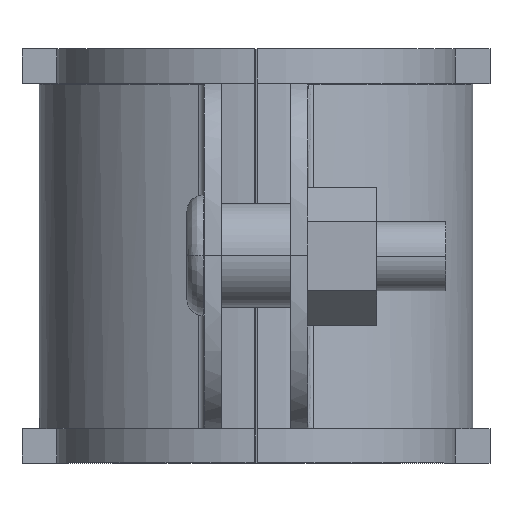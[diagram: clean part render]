
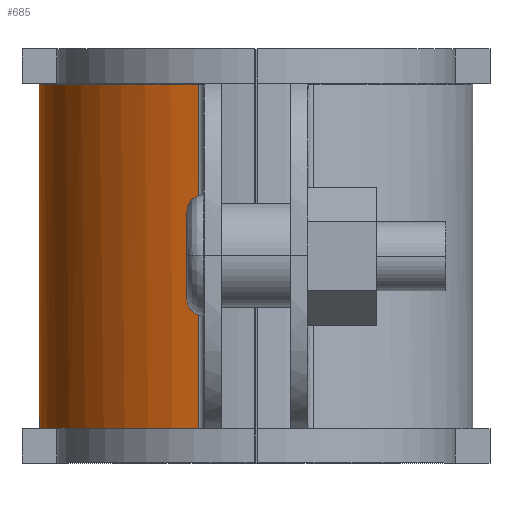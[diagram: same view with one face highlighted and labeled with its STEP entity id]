
A CAD part, top view. The second image highlights one B-rep face of the part: STEP entity #685.
In plain terms, the highlighted free-form (B-spline) face has degree [3, 1] with [4, 2] control points.
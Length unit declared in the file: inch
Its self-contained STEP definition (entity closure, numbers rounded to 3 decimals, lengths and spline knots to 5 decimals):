
#475=EDGE_CURVE('',#1058,#1195,#1196,.T.);
#523=EDGE_CURVE('',#1058,#1268,#1269,.T.);
#685=ADVANCED_FACE('',(#1498),#1499,.T.);
#751=EDGE_CURVE('',#1054,#1268,#1583,.T.);
#843=EDGE_CURVE('',#1195,#1054,#1700,.T.);
#1054=VERTEX_POINT('',#1991);
#1058=VERTEX_POINT('',#1997);
#1195=VERTEX_POINT('',#2286);
#1196=B_SPLINE_CURVE_WITH_KNOTS('',3,(#2287,#2288,#2289,#2290),.UNSPECIFIED.,.F.,.F.,(4,4),(-1.0,-0.0),.UNSPECIFIED.);
#1268=VERTEX_POINT('',#2415);
#1269=LINE('',#2416,#2417);
#1498=FACE_OUTER_BOUND('',#2829,.T.);
#1499=B_SPLINE_SURFACE_WITH_KNOTS('',3,1,((#2830,#2831),(#2832,#2833),(#2834,#2835),(#2836,#2837)),.UNSPECIFIED.,.F.,.F.,.F.,(4,4),(2,2),(-1.0,-0.0),(0.0,1.25),.UNSPECIFIED.);
#1583=B_SPLINE_CURVE_WITH_KNOTS('',3,(#3071,#3072,#3073,#3074),.UNSPECIFIED.,.F.,.F.,(4,4),(0.0,1.0),.UNSPECIFIED.);
#1700=LINE('',#3295,#3296);
#1991=CARTESIAN_POINT('',(0.00005,0.0,1.45231));
#1997=CARTESIAN_POINT('',(0.57567,1.24627,2.2085));
#2286=CARTESIAN_POINT('',(0.00005,1.24627,1.45231));
#2287=CARTESIAN_POINT('',(0.57567,1.24627,2.2085));
#2288=CARTESIAN_POINT('',(0.24378,1.24627,2.11694));
#2289=CARTESIAN_POINT('',(0.00005,1.24627,1.81339));
#2290=CARTESIAN_POINT('',(0.00005,1.24627,1.45231));
#2415=CARTESIAN_POINT('',(0.57567,0.0,2.2085));
#2416=CARTESIAN_POINT('',(0.57567,1.25,2.2085));
#2417=VECTOR('',#4028,1.0);
#2829=EDGE_LOOP('',(#4350,#4351,#4352,#4353));
#2830=CARTESIAN_POINT('',(0.57567,1.25,2.2085));
#2831=CARTESIAN_POINT('',(0.57567,0.0,2.2085));
#2832=CARTESIAN_POINT('',(0.24378,1.25,2.11694));
#2833=CARTESIAN_POINT('',(0.24378,0.0,2.11694));
#2834=CARTESIAN_POINT('',(0.00005,1.25,1.81339));
#2835=CARTESIAN_POINT('',(0.00005,0.0,1.81339));
#2836=CARTESIAN_POINT('',(0.00005,1.25,1.45231));
#2837=CARTESIAN_POINT('',(0.00005,0.0,1.45231));
#3071=CARTESIAN_POINT('',(0.00005,0.0,1.45231));
#3072=CARTESIAN_POINT('',(0.00005,0.0,1.81339));
#3073=CARTESIAN_POINT('',(0.24378,0.0,2.11694));
#3074=CARTESIAN_POINT('',(0.57567,0.0,2.2085));
#3295=CARTESIAN_POINT('',(0.00005,1.25,1.45231));
#3296=VECTOR('',#4709,1.0);
#4028=DIRECTION('',(0.0,-1.0,0.0));
#4350=ORIENTED_EDGE('',*,*,#475,.T.);
#4351=ORIENTED_EDGE('',*,*,#843,.T.);
#4352=ORIENTED_EDGE('',*,*,#751,.T.);
#4353=ORIENTED_EDGE('',*,*,#523,.F.);
#4709=DIRECTION('',(0.0,-1.0,0.0));
